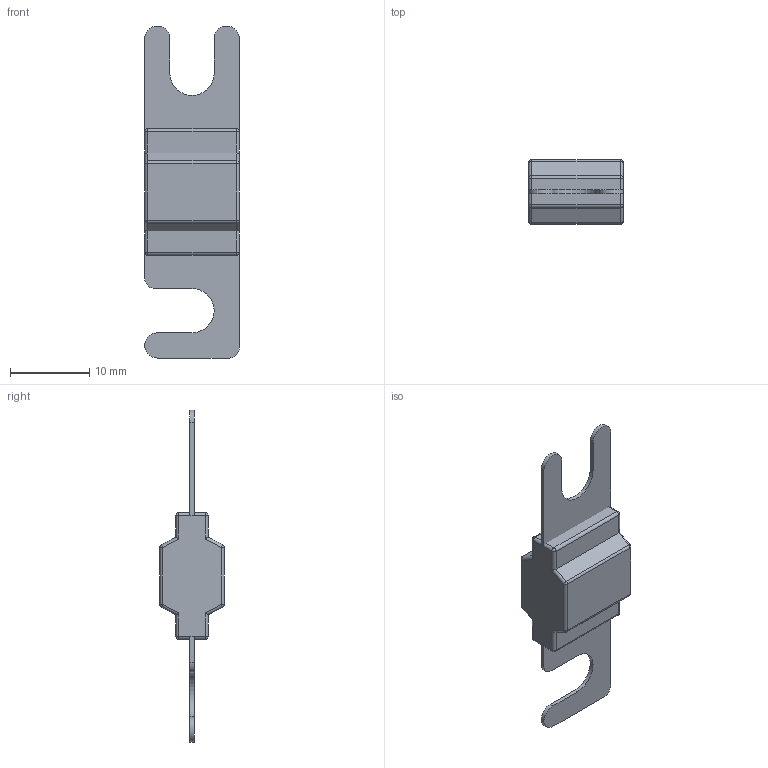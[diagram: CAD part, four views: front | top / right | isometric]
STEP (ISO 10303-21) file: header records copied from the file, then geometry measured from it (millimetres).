
FILE_DESCRIPTION(/* description */ (''),/* implementation_level */ '2;1');
FILE_NAME(/* name */ 'C:\Users\Hani\Desktop\work\MID-60A\MID-60A.stp',/* time_stamp */ '2021-02-20T18:58:08-08:00',/* author */ ('Hani'),/* organization */ (''),/* preprocessor_version */ 'ST-DEVELOPER v17',/* originating_system */ 'Autodesk Inventor 2019',/* authorisation */ '');
FILE_SCHEMA (('AUTOMOTIVE_DESIGN { 1 0 10303 214 3 1 1 }'));
Length unit declared in the file: inch
Products named in the file (3): MID-60A; terminal; body
Assembly tree (2 placements, depth 2):
  MID-60A
    terminal
    body
Bounding box: 11.94 x 8.13 x 41.91 mm (x, y, z)
Volume: 1319 mm3; surface area: 1284.2 mm2
Topology: 2 solids, 2 shells, 86 faces, 190 edges, 108 vertices
Faces by surface type: cylinder 39, plane 31, sphere 16
Entity records: 2428 total; most frequent: DIRECTION 442, CARTESIAN_POINT 389, ORIENTED_EDGE 380, EDGE_CURVE 190, AXIS2_PLACEMENT_3D 161, LINE 120, VECTOR 120, VERTEX_POINT 108
